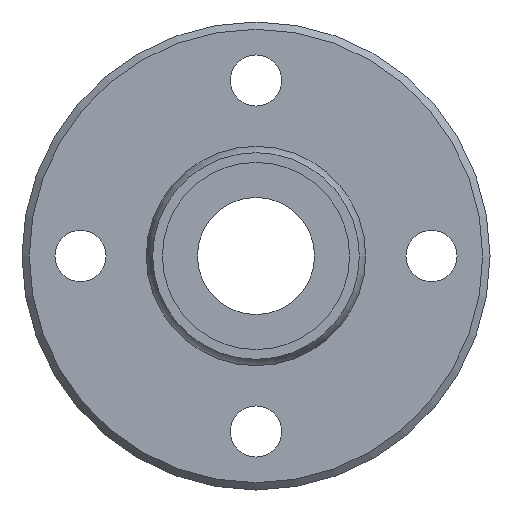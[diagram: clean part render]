
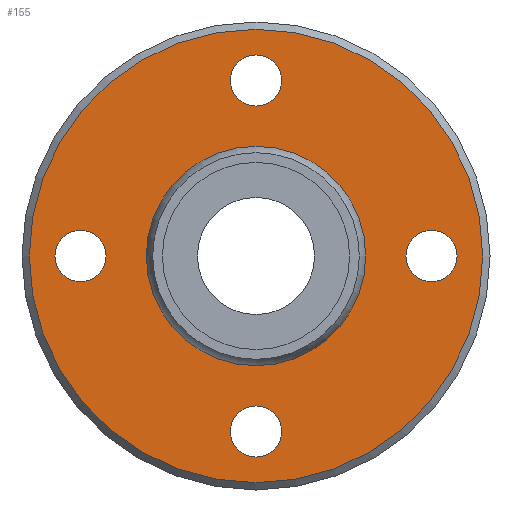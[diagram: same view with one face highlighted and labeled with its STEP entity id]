
A CAD part, left-side view. The second image highlights one B-rep face of the part: STEP entity #155.
In plain terms, the highlighted planar face has unit normal (-1, 0, 0).
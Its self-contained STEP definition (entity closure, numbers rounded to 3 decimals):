
#60=CARTESIAN_POINT('',(5.,0.,15.5));
#61=VERTEX_POINT('',#60);
#62=CARTESIAN_POINT('',(5.,0.0,0.0));
#63=DIRECTION('',(1.0,0.0,0.0));
#64=DIRECTION('',(0.0,0.0,-1.0));
#65=AXIS2_PLACEMENT_3D('',#62,#63,#64);
#66=CIRCLE('',#65,15.5);
#67=EDGE_CURVE('',#61,#61,#66,.T.);
#92=CARTESIAN_POINT('',(5.,0.0,11.655));
#93=DIRECTION('',(-1.0,0.0,0.0));
#94=DIRECTION('',(0.0,0.0,1.0));
#95=AXIS2_PLACEMENT_3D('',#92,#93,#94);
#96=PLANE('',#95);
#97=ORIENTED_EDGE('',*,*,#67,.F.);
#98=EDGE_LOOP('',(#97));
#99=FACE_OUTER_BOUND('',#98,.T.);
#100=CARTESIAN_POINT('',(5.0,0.0,7.309));
#101=VERTEX_POINT('',#100);
#102=CARTESIAN_POINT('',(5.0,0.0,0.0));
#103=DIRECTION('',(-1.0,0.0,0.0));
#104=DIRECTION('',(0.0,0.0,1.0));
#105=AXIS2_PLACEMENT_3D('',#102,#103,#104);
#106=CIRCLE('',#105,7.309);
#107=EDGE_CURVE('',#101,#101,#106,.T.);
#108=ORIENTED_EDGE('',*,*,#107,.F.);
#109=EDGE_LOOP('',(#108));
#110=FACE_BOUND('',#109,.T.);
#111=CARTESIAN_POINT('',(5.0,10.25,0.));
#112=VERTEX_POINT('',#111);
#113=CARTESIAN_POINT('',(5.0,12.,0.));
#114=DIRECTION('',(1.0,0.0,0.0));
#115=DIRECTION('',(0.0,1.0,0.0));
#116=AXIS2_PLACEMENT_3D('',#113,#114,#115);
#117=CIRCLE('',#116,1.75);
#118=EDGE_CURVE('',#112,#112,#117,.T.);
#119=ORIENTED_EDGE('',*,*,#118,.T.);
#120=EDGE_LOOP('',(#119));
#121=FACE_BOUND('',#120,.T.);
#122=CARTESIAN_POINT('',(5.0,-13.75,0.));
#123=VERTEX_POINT('',#122);
#124=CARTESIAN_POINT('',(5.0,-12.,0.0));
#125=DIRECTION('',(1.0,0.0,0.0));
#126=DIRECTION('',(0.0,1.0,0.0));
#127=AXIS2_PLACEMENT_3D('',#124,#125,#126);
#128=CIRCLE('',#127,1.75);
#129=EDGE_CURVE('',#123,#123,#128,.T.);
#130=ORIENTED_EDGE('',*,*,#129,.T.);
#131=EDGE_LOOP('',(#130));
#132=FACE_BOUND('',#131,.T.);
#133=CARTESIAN_POINT('',(5.0,-1.75,12.));
#134=VERTEX_POINT('',#133);
#135=CARTESIAN_POINT('',(5.0,0.,12.));
#136=DIRECTION('',(1.0,0.0,0.0));
#137=DIRECTION('',(0.0,1.0,0.0));
#138=AXIS2_PLACEMENT_3D('',#135,#136,#137);
#139=CIRCLE('',#138,1.75);
#140=EDGE_CURVE('',#134,#134,#139,.T.);
#141=ORIENTED_EDGE('',*,*,#140,.T.);
#142=EDGE_LOOP('',(#141));
#143=FACE_BOUND('',#142,.T.);
#144=CARTESIAN_POINT('',(5.0,-1.75,-12.));
#145=VERTEX_POINT('',#144);
#146=CARTESIAN_POINT('',(5.0,0.,-12.));
#147=DIRECTION('',(1.0,0.0,0.0));
#148=DIRECTION('',(0.0,1.0,0.0));
#149=AXIS2_PLACEMENT_3D('',#146,#147,#148);
#150=CIRCLE('',#149,1.75);
#151=EDGE_CURVE('',#145,#145,#150,.T.);
#152=ORIENTED_EDGE('',*,*,#151,.T.);
#153=EDGE_LOOP('',(#152));
#154=FACE_BOUND('',#153,.T.);
#155=ADVANCED_FACE('',(#99,#110,#121,#132,#143,#154),#96,.T.);
